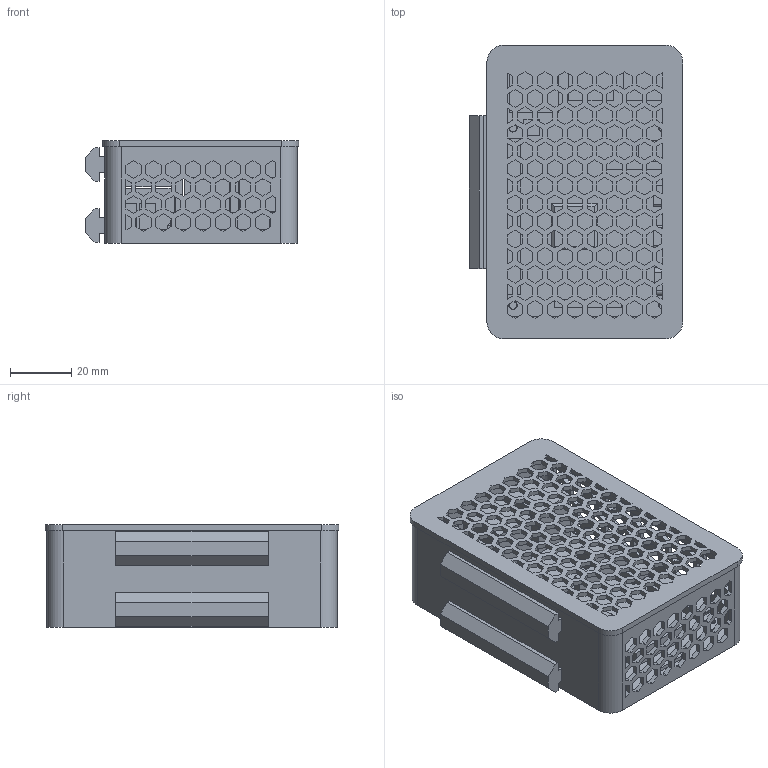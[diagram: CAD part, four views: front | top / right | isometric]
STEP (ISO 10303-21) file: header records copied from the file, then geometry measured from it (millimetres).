
FILE_DESCRIPTION(/* description */ (''),/* implementation_level */ '2;1');
FILE_NAME(/* name */ 'RPi4 Ender 3 Mount Case v5.step',/* time_stamp */ '2022-12-22T13:00:00-05:00',/* author */ (''),/* organization */ (''),/* preprocessor_version */ 'ST-DEVELOPER v19.2',/* originating_system */ 'Autodesk Translation Framework v11.17.0.187',/* authorisation */ '');
FILE_SCHEMA (('AUTOMOTIVE_DESIGN { 1 0 10303 214 3 1 1 }'));
Length unit declared in the file: millimetre
Products named in the file (5): RPi4 Ender 3 Mount Case; Enclosure; Top Cover; Case; RPi4
Assembly tree (4 placements, depth 3):
  RPi4 Ender 3 Mount Case
    Enclosure
      Top Cover
      Case
    RPi4
Bounding box: 69.8 x 96 x 33.5 mm (x, y, z)
Volume: 54550.7 mm3; surface area: 63385.2 mm2
Topology: 16 solids, 16 shells, 1381 faces, 3996 edges, 2662 vertices
Faces by surface type: plane 1315, cylinder 66
Full cylindrical faces by diameter (mm): 2.5 x4, 2.7 x4, 5.1 x4, 6 x1, 7 x1
Entity records: 45545 total; most frequent: CARTESIAN_POINT 8048, ORIENTED_EDGE 7992, DIRECTION 6914, EDGE_CURVE 3996, LINE 3858, VECTOR 3858, VERTEX_POINT 2662, EDGE_LOOP 1806
